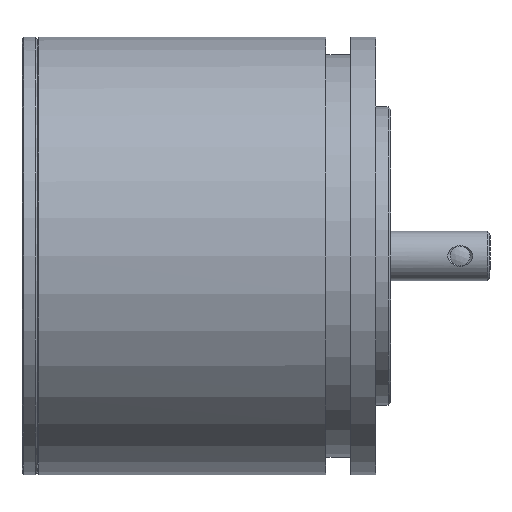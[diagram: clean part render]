
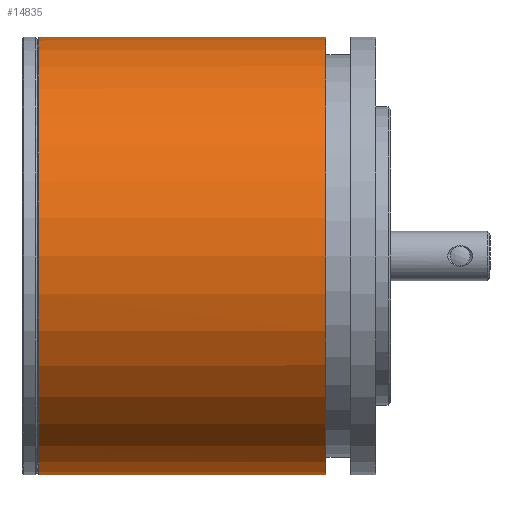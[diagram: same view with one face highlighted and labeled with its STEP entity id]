
A CAD part, front view. The second image highlights one B-rep face of the part: STEP entity #14835.
In plain terms, the highlighted cylindrical face has radius 44 mm (diameter 88 mm), a full revolution.
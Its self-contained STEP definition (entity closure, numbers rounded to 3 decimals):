
#106=LINE('',#21986,#1340);
#107=LINE('',#21988,#1341);
#109=LINE('',#22004,#1343);
#110=LINE('',#22005,#1344);
#111=LINE('',#22007,#1345);
#112=LINE('',#22008,#1346);
#1340=VECTOR('',#17174,3.262);
#1341=VECTOR('',#17175,3.262);
#1343=VECTOR('',#17185,24.477);
#1344=VECTOR('',#17186,2.962);
#1345=VECTOR('',#17187,2.962);
#1346=VECTOR('',#17188,24.477);
#3125=CYLINDRICAL_SURFACE('',#15746,44.);
#3782=FACE_BOUND('',#4910,.T.);
#4029=FACE_OUTER_BOUND('',#4909,.T.);
#4909=EDGE_LOOP('',(#10125,#10126,#10127,#10128,#10129,#10130,#10131,#10132));
#4910=EDGE_LOOP('',(#10133));
#5851=CIRCLE('',#15740,44.);
#5854=CIRCLE('',#15745,44.);
#5855=CIRCLE('',#15747,44.);
#6335=VERTEX_POINT('',#21978);
#6336=VERTEX_POINT('',#21979);
#6338=VERTEX_POINT('',#21984);
#6339=VERTEX_POINT('',#21987);
#6341=VERTEX_POINT('',#21993);
#6342=VERTEX_POINT('',#21997);
#6343=VERTEX_POINT('',#22003);
#6344=VERTEX_POINT('',#22006);
#6345=VERTEX_POINT('',#22009);
#7826=EDGE_CURVE('',#6335,#6336,#5851,.T.);
#7829=EDGE_CURVE('',#6336,#6338,#106,.T.);
#7830=EDGE_CURVE('',#6339,#6335,#107,.T.);
#7835=EDGE_CURVE('',#6342,#6341,#5854,.T.);
#7836=EDGE_CURVE('',#6338,#6343,#109,.T.);
#7837=EDGE_CURVE('',#6343,#6341,#110,.T.);
#7838=EDGE_CURVE('',#6342,#6344,#111,.T.);
#7839=EDGE_CURVE('',#6344,#6339,#112,.T.);
#7840=EDGE_CURVE('',#6345,#6345,#5855,.T.);
#10125=ORIENTED_EDGE('',*,*,#7829,.T.);
#10126=ORIENTED_EDGE('',*,*,#7836,.T.);
#10127=ORIENTED_EDGE('',*,*,#7837,.T.);
#10128=ORIENTED_EDGE('',*,*,#7835,.F.);
#10129=ORIENTED_EDGE('',*,*,#7838,.T.);
#10130=ORIENTED_EDGE('',*,*,#7839,.T.);
#10131=ORIENTED_EDGE('',*,*,#7830,.T.);
#10132=ORIENTED_EDGE('',*,*,#7826,.T.);
#10133=ORIENTED_EDGE('',*,*,#7840,.F.);
#14835=ADVANCED_FACE('',(#4029,#3782),#3125,.T.);
#15740=AXIS2_PLACEMENT_3D('',#21980,#17167,#17168);
#15745=AXIS2_PLACEMENT_3D('',#22001,#17181,#17182);
#15746=AXIS2_PLACEMENT_3D('',#22002,#17183,#17184);
#15747=AXIS2_PLACEMENT_3D('',#22010,#17189,#17190);
#17167=DIRECTION('center_axis',(1.,0.,0.));
#17168=DIRECTION('ref_axis',(0.,1.,0.));
#17174=DIRECTION('',(-1.,0.,0.));
#17175=DIRECTION('',(1.,0.,0.));
#17181=DIRECTION('center_axis',(-1.,0.,0.));
#17182=DIRECTION('ref_axis',(0.,-1.,0.));
#17183=DIRECTION('center_axis',(1.,0.,0.));
#17184=DIRECTION('ref_axis',(0.,1.,0.));
#17185=DIRECTION('',(-1.,0.,0.));
#17186=DIRECTION('',(-1.,0.,0.));
#17187=DIRECTION('',(1.,0.,0.));
#17188=DIRECTION('',(1.,0.,0.));
#17189=DIRECTION('center_axis',(1.,0.,0.));
#17190=DIRECTION('ref_axis',(0.,1.,0.));
#21978=CARTESIAN_POINT('',(-40.,28.403,-33.605));
#21979=CARTESIAN_POINT('',(-40.,43.304,-7.795));
#21980=CARTESIAN_POINT('Origin',(-40.,0.,0.));
#21984=CARTESIAN_POINT('',(-43.262,43.304,-7.795));
#21986=CARTESIAN_POINT('',(-42.,43.304,-7.795));
#21987=CARTESIAN_POINT('',(-43.262,28.403,-33.605));
#21988=CARTESIAN_POINT('',(-42.,28.403,-33.605));
#21993=CARTESIAN_POINT('',(-70.7,43.304,-7.795));
#21997=CARTESIAN_POINT('',(-70.7,28.403,-33.605));
#22001=CARTESIAN_POINT('Origin',(-70.7,0.,0.));
#22002=CARTESIAN_POINT('Origin',(-42.,0.,0.));
#22003=CARTESIAN_POINT('',(-67.738,43.304,-7.795));
#22004=CARTESIAN_POINT('',(-42.,43.304,-7.795));
#22005=CARTESIAN_POINT('',(-42.,43.304,-7.795));
#22006=CARTESIAN_POINT('',(-67.738,28.403,-33.605));
#22007=CARTESIAN_POINT('',(-42.,28.403,-33.605));
#22008=CARTESIAN_POINT('',(-42.,28.403,-33.605));
#22009=CARTESIAN_POINT('',(-13.,44.,0.));
#22010=CARTESIAN_POINT('Origin',(-13.,0.,0.));
